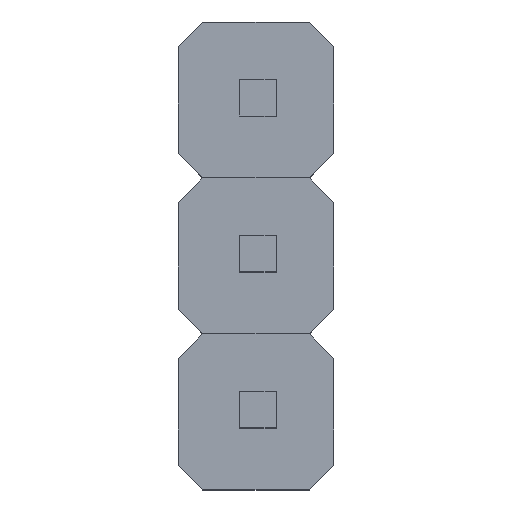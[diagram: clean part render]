
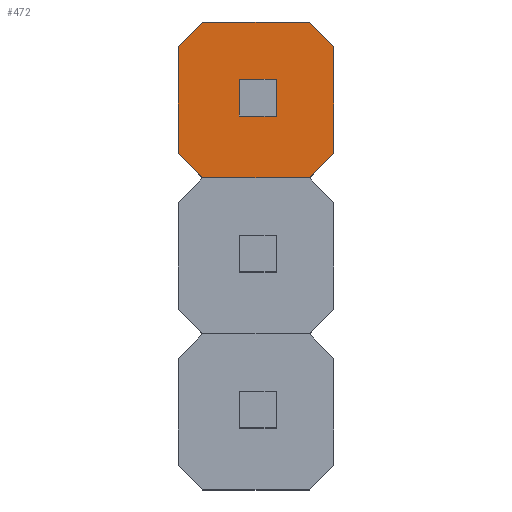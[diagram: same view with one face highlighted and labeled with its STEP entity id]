
A CAD part, top view. The second image highlights one B-rep face of the part: STEP entity #472.
In plain terms, the highlighted planar face has unit normal (0, 0, 1).
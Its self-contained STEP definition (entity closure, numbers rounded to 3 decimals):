
#284 = EDGE_CURVE('',#285,#287,#289,.T.);
#285 = VERTEX_POINT('',#286);
#286 = CARTESIAN_POINT('',(-1.27,-0.87,1.54));
#287 = VERTEX_POINT('',#288);
#288 = CARTESIAN_POINT('',(-1.27,0.87,1.54));
#289 = LINE('',#290,#291);
#290 = CARTESIAN_POINT('',(-1.27,-1.27,1.54));
#291 = VECTOR('',#292,1.);
#292 = DIRECTION('',(0.,1.,0.));
#317 = EDGE_CURVE('',#285,#318,#320,.T.);
#318 = VERTEX_POINT('',#319);
#319 = CARTESIAN_POINT('',(-0.87,-1.27,1.54));
#320 = LINE('',#321,#322);
#321 = CARTESIAN_POINT('',(-1.07,-1.07,1.54));
#322 = VECTOR('',#323,1.);
#323 = DIRECTION('',(0.707,-0.707,0.));
#341 = EDGE_CURVE('',#287,#342,#344,.T.);
#342 = VERTEX_POINT('',#343);
#343 = CARTESIAN_POINT('',(-0.87,1.27,1.54));
#344 = LINE('',#345,#346);
#345 = CARTESIAN_POINT('',(-1.705,0.435,1.54));
#346 = VECTOR('',#347,1.);
#347 = DIRECTION('',(0.707,0.707,0.));
#365 = EDGE_CURVE('',#318,#366,#368,.T.);
#366 = VERTEX_POINT('',#367);
#367 = CARTESIAN_POINT('',(0.87,-1.27,1.54));
#368 = LINE('',#369,#370);
#369 = CARTESIAN_POINT('',(-1.27,-1.27,1.54));
#370 = VECTOR('',#371,1.);
#371 = DIRECTION('',(1.,0.,0.));
#389 = EDGE_CURVE('',#342,#390,#392,.T.);
#390 = VERTEX_POINT('',#391);
#391 = CARTESIAN_POINT('',(0.87,1.27,1.54));
#392 = LINE('',#393,#394);
#393 = CARTESIAN_POINT('',(-1.27,1.27,1.54));
#394 = VECTOR('',#395,1.);
#395 = DIRECTION('',(1.,0.,0.));
#413 = VERTEX_POINT('',#414);
#414 = CARTESIAN_POINT('',(1.27,-0.87,1.54));
#420 = EDGE_CURVE('',#413,#366,#421,.T.);
#421 = LINE('',#422,#423);
#422 = CARTESIAN_POINT('',(0.435,-1.705,1.54));
#423 = VECTOR('',#424,1.);
#424 = DIRECTION('',(-0.707,-0.707,0.));
#437 = VERTEX_POINT('',#438);
#438 = CARTESIAN_POINT('',(1.27,0.87,1.54));
#444 = EDGE_CURVE('',#437,#390,#445,.T.);
#445 = LINE('',#446,#447);
#446 = CARTESIAN_POINT('',(1.07,1.07,1.54));
#447 = VECTOR('',#448,1.);
#448 = DIRECTION('',(-0.707,0.707,0.));
#459 = EDGE_CURVE('',#413,#437,#460,.T.);
#460 = LINE('',#461,#462);
#461 = CARTESIAN_POINT('',(1.27,-1.27,1.54));
#462 = VECTOR('',#463,1.);
#463 = DIRECTION('',(0.,1.,0.));
#472 = ADVANCED_FACE('',(#473,#483),#517,.T.);
#473 = FACE_BOUND('',#474,.T.);
#474 = EDGE_LOOP('',(#475,#476,#477,#478,#479,#480,#481,#482));
#475 = ORIENTED_EDGE('',*,*,#284,.F.);
#476 = ORIENTED_EDGE('',*,*,#317,.T.);
#477 = ORIENTED_EDGE('',*,*,#365,.T.);
#478 = ORIENTED_EDGE('',*,*,#420,.F.);
#479 = ORIENTED_EDGE('',*,*,#459,.T.);
#480 = ORIENTED_EDGE('',*,*,#444,.T.);
#481 = ORIENTED_EDGE('',*,*,#389,.F.);
#482 = ORIENTED_EDGE('',*,*,#341,.F.);
#483 = FACE_BOUND('',#484,.T.);
#484 = EDGE_LOOP('',(#485,#495,#503,#511));
#485 = ORIENTED_EDGE('',*,*,#486,.F.);
#486 = EDGE_CURVE('',#487,#489,#491,.T.);
#487 = VERTEX_POINT('',#488);
#488 = CARTESIAN_POINT('',(-0.27,0.33,1.54));
#489 = VERTEX_POINT('',#490);
#490 = CARTESIAN_POINT('',(-0.27,-0.27,1.54));
#491 = LINE('',#492,#493);
#492 = CARTESIAN_POINT('',(-0.27,-0.77,1.54));
#493 = VECTOR('',#494,1.);
#494 = DIRECTION('',(0.,-1.,0.));
#495 = ORIENTED_EDGE('',*,*,#496,.T.);
#496 = EDGE_CURVE('',#487,#497,#499,.T.);
#497 = VERTEX_POINT('',#498);
#498 = CARTESIAN_POINT('',(0.33,0.33,1.54));
#499 = LINE('',#500,#501);
#500 = CARTESIAN_POINT('',(-0.77,0.33,1.54));
#501 = VECTOR('',#502,1.);
#502 = DIRECTION('',(1.,0.,0.));
#503 = ORIENTED_EDGE('',*,*,#504,.T.);
#504 = EDGE_CURVE('',#497,#505,#507,.T.);
#505 = VERTEX_POINT('',#506);
#506 = CARTESIAN_POINT('',(0.33,-0.27,1.54));
#507 = LINE('',#508,#509);
#508 = CARTESIAN_POINT('',(0.33,-0.77,1.54));
#509 = VECTOR('',#510,1.);
#510 = DIRECTION('',(0.,-1.,0.));
#511 = ORIENTED_EDGE('',*,*,#512,.F.);
#512 = EDGE_CURVE('',#489,#505,#513,.T.);
#513 = LINE('',#514,#515);
#514 = CARTESIAN_POINT('',(-0.77,-0.27,1.54));
#515 = VECTOR('',#516,1.);
#516 = DIRECTION('',(1.,0.,0.));
#517 = PLANE('',#518);
#518 = AXIS2_PLACEMENT_3D('',#519,#520,#521);
#519 = CARTESIAN_POINT('',(-1.27,-1.27,1.54));
#520 = DIRECTION('',(0.,0.,1.));
#521 = DIRECTION('',(1.,0.,-0.));
